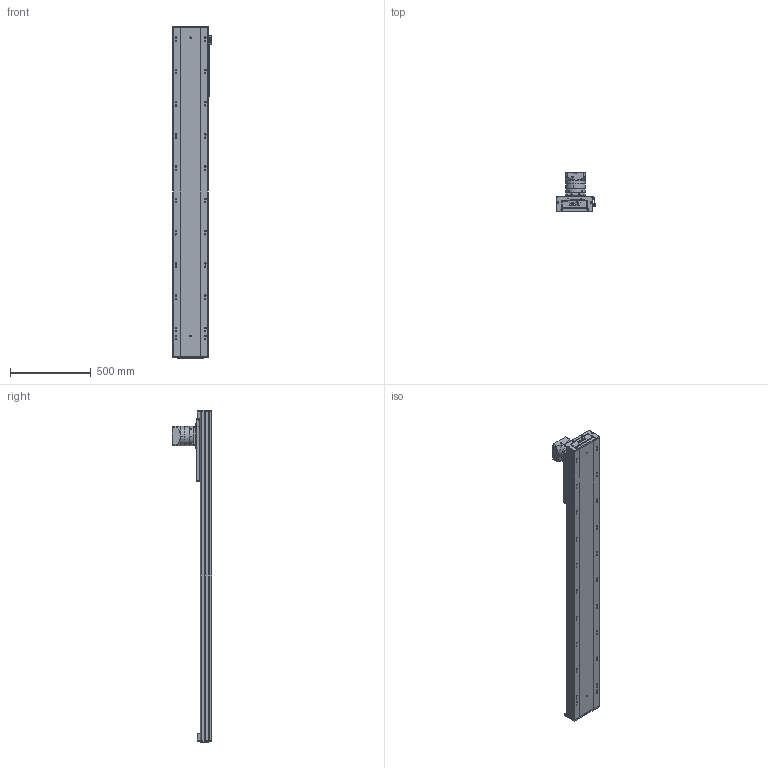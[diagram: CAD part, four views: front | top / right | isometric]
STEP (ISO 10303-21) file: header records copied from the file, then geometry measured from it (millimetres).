
FILE_DESCRIPTION (( 'STEP AP203' ), '1' );
FILE_NAME ('RY220-C-300-UK.SLDASM_1550.step', '2022-08-01T05:59:26', ( '' ), ( '' ), 'SwSTEP 2.0', 'SolidWorks 2016', '' );
FILE_SCHEMA (( 'CONFIG_CONTROL_DESIGN' ));
Length unit declared in the file: millimetre
Products named in the file (10): RY140直线电机感应器674光电安装座; PF115L1-S2-22-58-110-145-M8; RY220喘沭綴裔啣; 滅袉蝶輸ㄗG412隅秶ㄘ; RY220喘沭俋离覜茼え; 覜茼ん674; RY220菁釱MK-300_1550; RY220喘沭賑輸; RY220-C-300-UK.SLDASM_1550; RY220-齿条模组电机安装板
Assembly tree (12 placements, depth 2):
  RY220-C-300-UK.SLDASM_1550
    RY220菁釱MK-300_1550
    RY220喘沭賑輸
    RY220-齿条模组电机安装板
    PF115L1-S2-22-58-110-145-M8
    RY220喘沭綴裔啣  x2
    滅袉蝶輸ㄗG412隅秶ㄘ  x2
    RY140直线电机感应器674光电安装座
    覜茼ん674  x2
    RY220喘沭俋离覜茼え
Bounding box: 247 x 244.5 x 2059 mm (x, y, z)
Volume: 15351681 mm3; surface area: 3078227.6 mm2
Topology: 18 solids, 26 shells, 2104 faces, 5653 edges, 3575 vertices
Faces by surface type: cylinder 985, plane 751, cone 206, bspline 162
Entity records: 66741 total; most frequent: CARTESIAN_POINT 18311, DIRECTION 9927, ORIENTED_EDGE 9794, EDGE_CURVE 4897, AXIS2_PLACEMENT_3D 3779, VERTEX_POINT 3201, EDGE_LOOP 2414, VECTOR 2369
